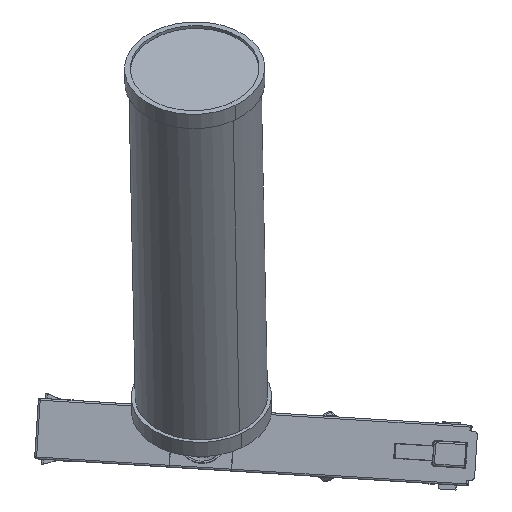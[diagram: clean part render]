
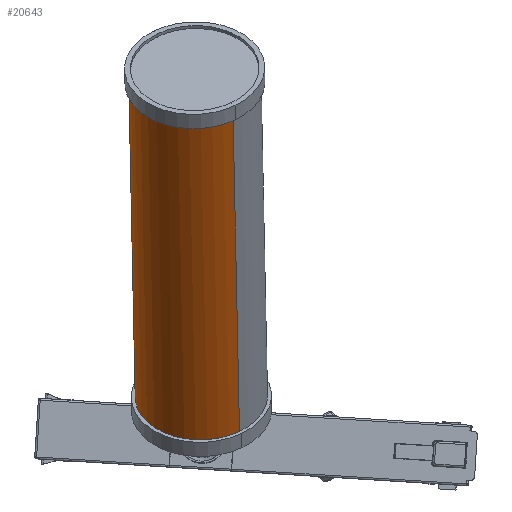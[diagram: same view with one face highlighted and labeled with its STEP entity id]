
A CAD part, left-side view. The second image highlights one B-rep face of the part: STEP entity #20643.
In plain terms, the highlighted cylindrical face has radius 17.5 mm (diameter 35 mm), a partial arc.
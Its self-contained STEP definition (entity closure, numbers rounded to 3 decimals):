
#1067 = DIRECTION ( 'NONE',  ( 0., 1., 0. ) ) ;
#3092 = EDGE_CURVE ( 'NONE', #67658, #10165, #33242, .T. ) ;
#3591 = CARTESIAN_POINT ( 'NONE',  ( 0., 110., 17.5 ) ) ;
#4732 = EDGE_CURVE ( 'NONE', #10165, #67160, #19274, .T. ) ;
#5223 = DIRECTION ( 'NONE',  ( 0., 1., 0. ) ) ;
#5317 = AXIS2_PLACEMENT_3D ( 'NONE', #66835, #5223, #24277 ) ;
#7306 = AXIS2_PLACEMENT_3D ( 'NONE', #71079, #34019, #65148 ) ;
#10165 = VERTEX_POINT ( 'NONE', #50913 ) ;
#10437 = CARTESIAN_POINT ( 'NONE',  ( 0., 0., -17.5 ) ) ;
#13780 = EDGE_CURVE ( 'NONE', #43979, #67160, #67426, .T. ) ;
#14987 = CARTESIAN_POINT ( 'NONE',  ( 0., 0., 17.5 ) ) ;
#16360 = ORIENTED_EDGE ( 'NONE', *, *, #13780, .T. ) ;
#16447 = ORIENTED_EDGE ( 'NONE', *, *, #3092, .F. ) ;
#18735 = CARTESIAN_POINT ( 'NONE',  ( 0., 110., 0. ) ) ;
#18746 = FACE_OUTER_BOUND ( 'NONE', #54044, .T. ) ;
#19274 = LINE ( 'NONE', #63242, #44451 ) ;
#19564 = DIRECTION ( 'NONE',  ( 0., 0., 1. ) ) ;
#19767 = CYLINDRICAL_SURFACE ( 'NONE', #7306, 17.5 ) ;
#20643 = ADVANCED_FACE ( 'NONE', ( #18746 ), #19767, .T. ) ;
#24187 = DIRECTION ( 'NONE',  ( 0., -1., 0. ) ) ;
#24277 = DIRECTION ( 'NONE',  ( 0., 0., 1. ) ) ;
#33242 = CIRCLE ( 'NONE', #79245, 17.5 ) ;
#33933 = LINE ( 'NONE', #73720, #49409 ) ;
#34019 = DIRECTION ( 'NONE',  ( 0., -1., 0. ) ) ;
#43979 = VERTEX_POINT ( 'NONE', #14987 ) ;
#44451 = VECTOR ( 'NONE', #50285, 1000. ) ;
#46428 = ORIENTED_EDGE ( 'NONE', *, *, #75810, .T. ) ;
#48791 = ORIENTED_EDGE ( 'NONE', *, *, #4732, .F. ) ;
#49409 = VECTOR ( 'NONE', #24187, 1000. ) ;
#50285 = DIRECTION ( 'NONE',  ( 0., -1., 0. ) ) ;
#50913 = CARTESIAN_POINT ( 'NONE',  ( 0., 110., -17.5 ) ) ;
#54044 = EDGE_LOOP ( 'NONE', ( #16447, #46428, #16360, #48791 ) ) ;
#63242 = CARTESIAN_POINT ( 'NONE',  ( 0., 110., -17.5 ) ) ;
#65148 = DIRECTION ( 'NONE',  ( 0., 0., -1. ) ) ;
#66835 = CARTESIAN_POINT ( 'NONE',  ( 0., 0., 0. ) ) ;
#67160 = VERTEX_POINT ( 'NONE', #10437 ) ;
#67426 = CIRCLE ( 'NONE', #5317, 17.5 ) ;
#67658 = VERTEX_POINT ( 'NONE', #3591 ) ;
#71079 = CARTESIAN_POINT ( 'NONE',  ( 0., 110., 0. ) ) ;
#73720 = CARTESIAN_POINT ( 'NONE',  ( 0., 110., 17.5 ) ) ;
#75810 = EDGE_CURVE ( 'NONE', #67658, #43979, #33933, .T. ) ;
#79245 = AXIS2_PLACEMENT_3D ( 'NONE', #18735, #1067, #19564 ) ;
